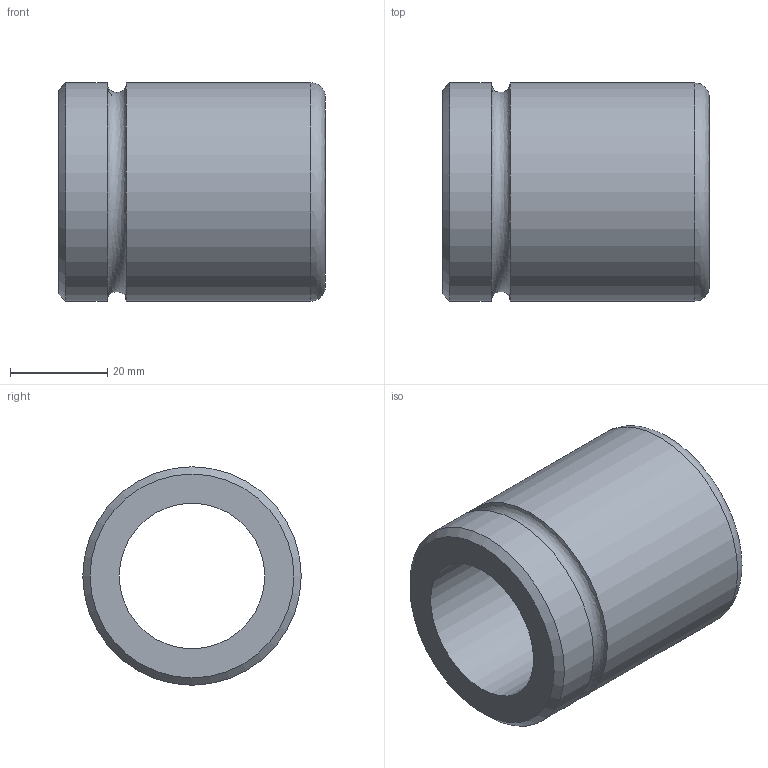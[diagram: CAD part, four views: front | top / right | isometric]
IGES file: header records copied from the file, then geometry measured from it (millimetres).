
Global section: file name: B43055.ipt; native system: Autodesk Inventor 2021; preprocessor: unknown; author: SM; date: 20211221.143428; units: millimetre
Bounding box: 55 x 45 x 45 mm (x, y, z)
Volume: 47300.8 mm3; surface area: 14645.5 mm2
Topology: 1 solids, 1 shells, 9 faces, 24 edges, 17 vertices
Faces by surface type: revolution 4, plane 2, cylinder 2, cone 1
Full cylindrical faces by diameter (mm): 45 x2
